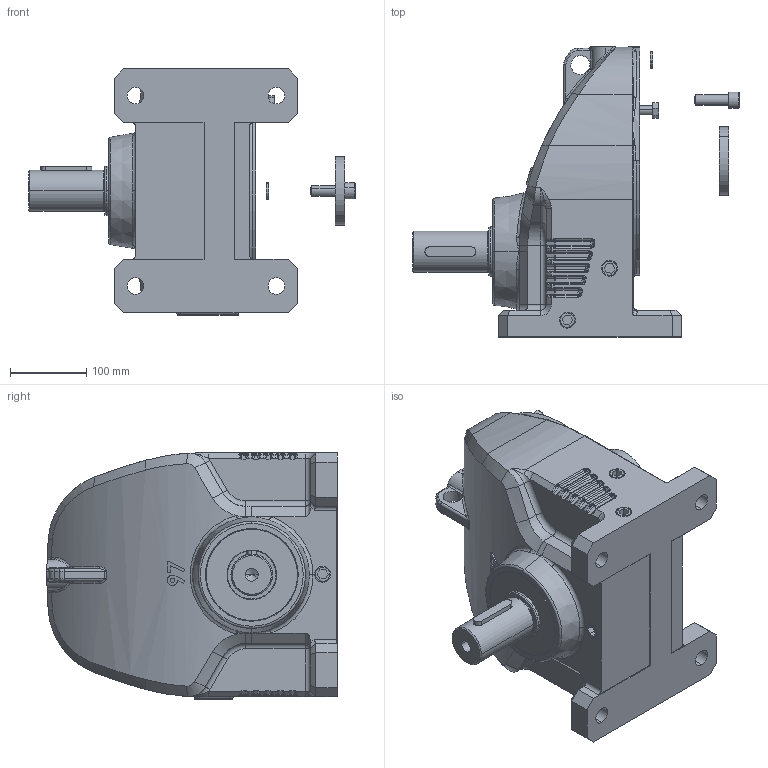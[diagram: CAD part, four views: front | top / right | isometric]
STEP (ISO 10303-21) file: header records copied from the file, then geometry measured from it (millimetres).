
FILE_DESCRIPTION (( 'STEP AP203' ), '1' );
FILE_NAME ('RX097HF-254TC.STEP', '2015-03-16T05:53:18', ( 'user' ), ( '' ), 'SwSTEP 2.0', 'SolidWorks 2012', '' );
FILE_SCHEMA (( 'CONFIG_CONTROL_DESIGN' ));
Products named in the file (31): KNGH254T32; JHGA09715; PSS065120151; PKD1409027S; PJB04; PCA055_JIS B 2804 Shaft use 55; PCB120; PBA6311_SKF - 6311 - 10,DE,NC,10_68; KEGX097; JCHX097; RX097HF-254TC; JSPC050060005A; PKD1_2067; PCA050; PBA6310_SKF - 6310 - 10,DE,NC,10_68; JKGB10780L_JKGB10780L; 097法蘭入力組合254T_28; PBA6213; PBA6212; PWS12; PTBA12040; P115; PCA028; PKD0606025; PSS065090121; PTAA14045; KFGG254T
Assembly tree (22 placements, depth 3):
  KNGH254T32
  JHGA09715
  RX097HF-254TC
    JCHX097
    KEGX097
    PBA6311_SKF - 6311 - 10,DE,NC,10_68
    PCB120
    PCA055_JIS B 2804 Shaft use 55
    PJB04  x5
    PKD1409027S
    PSS065120151
    097法蘭入力組合254T_28
      PTAA14045
      PSS065090121
      PTBA12040
      PWS12
    JKGB10780L_JKGB10780L
    PBA6310_SKF - 6310 - 10,DE,NC,10_68
    PCA050
    PKD1_2067
    JSPC050060005A
  PJB04
  PBA6213
Bounding box: 428.5 x 381 x 323 mm (x, y, z)
Volume: 5836575.7 mm3; surface area: 1112285.5 mm2
Topology: 21 solids, 21 shells, 1385 faces, 3579 edges, 2178 vertices
Faces by surface type: cylinder 461, plane 325, bspline 223, torus 214, cone 114, sphere 48
Entity records: 55249 total; most frequent: CARTESIAN_POINT 22178, ORIENTED_EDGE 6650, DIRECTION 6038, EDGE_CURVE 3325, AXIS2_PLACEMENT_3D 2495, VERTEX_POINT 2042, EDGE_LOOP 1413, CIRCLE 1379
